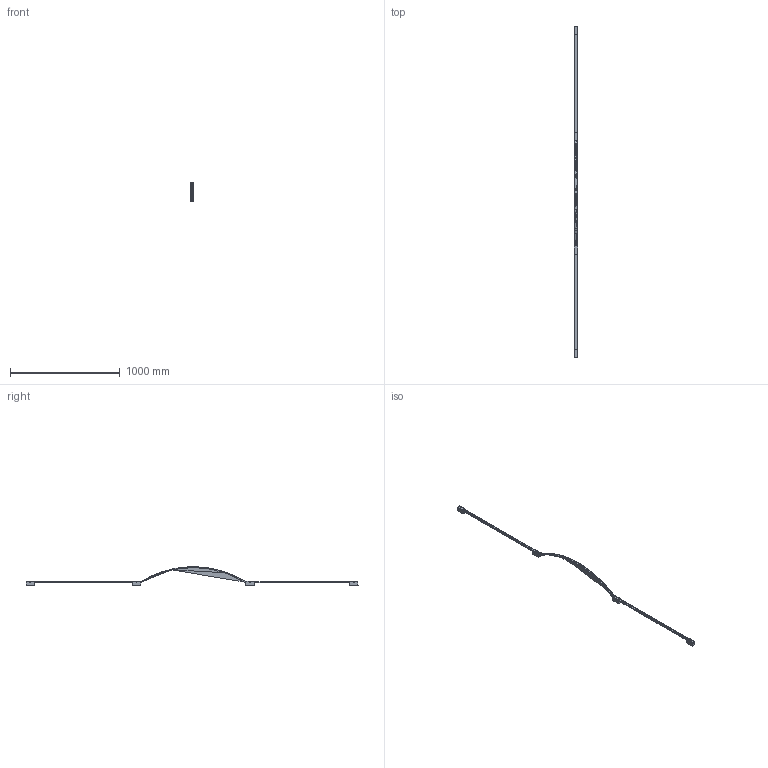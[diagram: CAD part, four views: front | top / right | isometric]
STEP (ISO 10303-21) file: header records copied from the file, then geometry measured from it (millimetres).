
FILE_DESCRIPTION(/* description */ (''),/* implementation_level */ '2;1');
FILE_NAME(/* name */ 'A138__~4',/* time_stamp */ '2024-07-02T12:23:31+02:00',/* author */ (''),/* organization */ (''),/* preprocessor_version */ 'ST-DEVELOPER v16.5',/* originating_system */ '',/* authorisation */ '');
FILE_SCHEMA (('AUTOMOTIVE_DESIGN'));
Length unit declared in the file: millimetre
Products named in the file (10): Configurazione 4; P22UT.0088 (blocchetto di fissaggio a muro ALL  + cover per blocchett
o di fissaggio ALL)_P22UT.0088 - con chiusura inferiore; socket set screw flat point_iso_ISO 4026 - M3 x 6-N; 4504.0008000.00 (bloccacavo a ponticello NY bianco Steab 5922-16)_450
4.0008000.00; 3300.0428000.00 (profilo quadro a U ALL 35x35mm H 75mm sp 2 con fori 
M4)_3306.0428075.00; 3300.0429000.00 (piastra di chiusura ALL 27x10mm sp 1,2)_3301.0429000.
00; 3300.0427000.00 (blocchetto di fissaggio a muro ALL 30x32,8mm H 75,5m
m)_3307.0427075.00; sheet metal screws_din_Tapping screw DIN 7049-ST3.5x9.5-C-H-N; P22UT.0088 (blocchetto di fissaggio a muro ALL  + cover per blocchett
o di fissaggio ALL)_P22UT.0088 - passante; Profilo curvato_Kit C - Curvo
Assembly tree (17 placements, depth 3):
  Configurazione 4
    P22UT.0088 (blocchetto di fissaggio a muro ALL  + cover per blocchett
o di fissaggio ALL)_P22UT.0088 - con chiusura inferiore  x2
      socket set screw flat point_iso_ISO 4026 - M3 x 6-N
      4504.0008000.00 (bloccacavo a ponticello NY bianco Steab 5922-16)_450
4.0008000.00
      3300.0428000.00 (profilo quadro a U ALL 35x35mm H 75mm sp 2 con fori 
M4)_3306.0428075.00
      3300.0429000.00 (piastra di chiusura ALL 27x10mm sp 1,2)_3301.0429000.
00
      3300.0427000.00 (blocchetto di fissaggio a muro ALL 30x32,8mm H 75,5m
m)_3307.0427075.00
      sheet metal screws_din_Tapping screw DIN 7049-ST3.5x9.5-C-H-N
    P22UT.0088 (blocchetto di fissaggio a muro ALL  + cover per blocchett
o di fissaggio ALL)_P22UT.0088 - passante  x2
      3300.0427000.00 (blocchetto di fissaggio a muro ALL 30x32,8mm H 75,5m
m)_3307.0427075.00
      socket set screw flat point_iso_ISO 4026 - M3 x 6-N
      3300.0428000.00 (profilo quadro a U ALL 35x35mm H 75mm sp 2 con fori 
M4)_3306.0428075.00
    Profilo curvato_Kit C - Curvo
Bounding box: 35 x 3029.59 x 169.86 mm (x, y, z)
Volume: 387189.9 mm3; surface area: 543598.6 mm2
Topology: 26 solids, 26 shells, 2245 faces, 5362 edges, 3161 vertices
Faces by surface type: bspline 1675, plane 570
Entity records: 36434 total; most frequent: CARTESIAN_POINT 25605, ORIENTED_EDGE 3646, EDGE_CURVE 1823, VERTEX_POINT 1061, B_SPLINE_CURVE_WITH_KNOTS 889, EDGE_LOOP 814, ADVANCED_FACE 783, FACE_OUTER_BOUND 783
